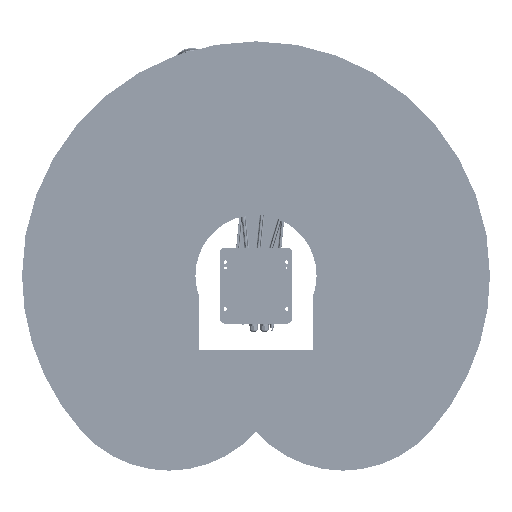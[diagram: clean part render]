
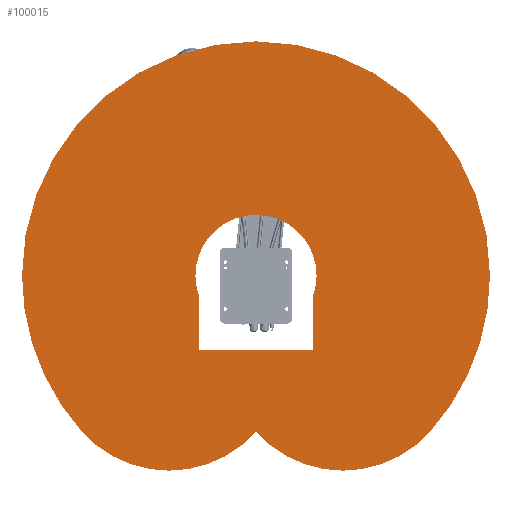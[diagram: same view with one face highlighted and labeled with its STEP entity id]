
A CAD part, front view. The second image highlights one B-rep face of the part: STEP entity #100015.
In plain terms, the highlighted planar face has unit normal (0, -1, 0) as drawn and (0, 0, 1) by its records, which use the part's own axes.
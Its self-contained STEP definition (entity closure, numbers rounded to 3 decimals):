
#153 = DIRECTION ( 'NONE',  ( 1., 0., 0. ) ) ;
#6232 = ORIENTED_EDGE ( 'NONE', *, *, #195327, .F. ) ;
#9344 = DIRECTION ( 'NONE',  ( -1., 0., 0. ) ) ;
#11474 = ORIENTED_EDGE ( 'NONE', *, *, #61401, .T. ) ;
#13415 = AXIS2_PLACEMENT_3D ( 'NONE', #109058, #280182, #221308 ) ;
#25685 = EDGE_LOOP ( 'NONE', ( #299074, #11474, #164456, #130207, #165605 ) ) ;
#26094 = CARTESIAN_POINT ( 'NONE',  ( 0., -535.304, 208. ) ) ;
#30086 = AXIS2_PLACEMENT_3D ( 'NONE', #85152, #186912, #47071 ) ;
#33138 = CARTESIAN_POINT ( 'NONE',  ( -196., -66.752, 208. ) ) ;
#35640 = DIRECTION ( 'NONE',  ( 1., 0., 0. ) ) ;
#36074 = ORIENTED_EDGE ( 'NONE', *, *, #359550, .F. ) ;
#37467 = DIRECTION ( 'NONE',  ( 0., 0., 1. ) ) ;
#38170 = DIRECTION ( 'NONE',  ( 1., 0., 0. ) ) ;
#47071 = DIRECTION ( 'NONE',  ( 1., 0., 0. ) ) ;
#49579 = CIRCLE ( 'NONE', #355217, 400. ) ;
#52146 = CARTESIAN_POINT ( 'NONE',  ( -594.516, -535.304, 208. ) ) ;
#54211 = CARTESIAN_POINT ( 'NONE',  ( 0., 0., 208. ) ) ;
#57007 = EDGE_CURVE ( 'NONE', #142178, #286723, #223186, .T. ) ;
#60202 = VERTEX_POINT ( 'NONE', #344549 ) ;
#60565 = CARTESIAN_POINT ( 'NONE',  ( 196., -66.752, 208. ) ) ;
#61401 = EDGE_CURVE ( 'NONE', #360782, #211636, #100511, .T. ) ;
#62311 = ORIENTED_EDGE ( 'NONE', *, *, #127358, .F. ) ;
#67780 = CIRCLE ( 'NONE', #238304, 207.055 ) ;
#68915 = VERTEX_POINT ( 'NONE', #60565 ) ;
#70063 = FACE_BOUND ( 'NONE', #316833, .T. ) ;
#80183 = CARTESIAN_POINT ( 'NONE',  ( -297.258, -267.652, 208. ) ) ;
#84855 = CARTESIAN_POINT ( 'NONE',  ( 800., 0., 208. ) ) ;
#85152 = CARTESIAN_POINT ( 'NONE',  ( 0., 0., 208. ) ) ;
#85977 = CARTESIAN_POINT ( 'NONE',  ( -196., -255., 208. ) ) ;
#90462 = CARTESIAN_POINT ( 'NONE',  ( 0., -267.652, 208. ) ) ;
#94633 = CARTESIAN_POINT ( 'NONE',  ( 594.516, -535.304, 208. ) ) ;
#95525 = CARTESIAN_POINT ( 'NONE',  ( 207.055, 0., 208. ) ) ;
#96207 = VECTOR ( 'NONE', #318259, 1000. ) ;
#98124 = CARTESIAN_POINT ( 'NONE',  ( 196., -255., 208. ) ) ;
#100015 = ADVANCED_FACE ( 'NONE', ( #178709, #70063 ), #232179, .F. ) ;
#100511 = CIRCLE ( 'NONE', #30086, 800. ) ;
#109058 = CARTESIAN_POINT ( 'NONE',  ( 0., 0., 208. ) ) ;
#110946 = CARTESIAN_POINT ( 'NONE',  ( -196., -255., 208. ) ) ;
#114989 = CARTESIAN_POINT ( 'NONE',  ( 297.258, -267.652, 208. ) ) ;
#116716 = DIRECTION ( 'NONE',  ( 1., 0., 0. ) ) ;
#117083 = VERTEX_POINT ( 'NONE', #26094 ) ;
#118467 = CIRCLE ( 'NONE', #141807, 207.055 ) ;
#127358 = EDGE_CURVE ( 'NONE', #60202, #337353, #278899, .T. ) ;
#130207 = ORIENTED_EDGE ( 'NONE', *, *, #334005, .T. ) ;
#140157 = CARTESIAN_POINT ( 'NONE',  ( 0., 0., 208. ) ) ;
#140975 = EDGE_CURVE ( 'NONE', #337353, #142178, #345927, .T. ) ;
#141807 = AXIS2_PLACEMENT_3D ( 'NONE', #242398, #205685, #38170 ) ;
#142178 = VERTEX_POINT ( 'NONE', #85977 ) ;
#144309 = CARTESIAN_POINT ( 'NONE',  ( 0., 0., 208. ) ) ;
#160709 = AXIS2_PLACEMENT_3D ( 'NONE', #90462, #208161, #9344 ) ;
#161631 = CARTESIAN_POINT ( 'NONE',  ( -800., 0., 208. ) ) ;
#162929 = DIRECTION ( 'NONE',  ( 0., 0., 1. ) ) ;
#164456 = ORIENTED_EDGE ( 'NONE', *, *, #327288, .T. ) ;
#165555 = ORIENTED_EDGE ( 'NONE', *, *, #140975, .F. ) ;
#165605 = ORIENTED_EDGE ( 'NONE', *, *, #308482, .T. ) ;
#178709 = FACE_OUTER_BOUND ( 'NONE', #25685, .T. ) ;
#186912 = DIRECTION ( 'NONE',  ( 0., 0., 1. ) ) ;
#190474 = CARTESIAN_POINT ( 'NONE',  ( 196., -66.752, 208. ) ) ;
#192400 = DIRECTION ( 'NONE',  ( 0., 0., 1. ) ) ;
#195327 = EDGE_CURVE ( 'NONE', #362136, #60202, #67780, .T. ) ;
#205685 = DIRECTION ( 'NONE',  ( 0., 0., 1. ) ) ;
#208161 = DIRECTION ( 'NONE',  ( 0., 0., -1. ) ) ;
#209453 = CIRCLE ( 'NONE', #297751, 800. ) ;
#211636 = VERTEX_POINT ( 'NONE', #84855 ) ;
#212876 = ORIENTED_EDGE ( 'NONE', *, *, #57007, .F. ) ;
#221308 = DIRECTION ( 'NONE',  ( 1., 0., 0. ) ) ;
#223186 = LINE ( 'NONE', #110946, #357315 ) ;
#232179 = PLANE ( 'NONE',  #160709 ) ;
#232657 = AXIS2_PLACEMENT_3D ( 'NONE', #140157, #337083, #153 ) ;
#238304 = AXIS2_PLACEMENT_3D ( 'NONE', #54211, #37467, #35640 ) ;
#242398 = CARTESIAN_POINT ( 'NONE',  ( 0., 0., 208. ) ) ;
#253047 = DIRECTION ( 'NONE',  ( 0., 1., 0. ) ) ;
#254457 = EDGE_CURVE ( 'NONE', #117083, #360782, #49579, .T. ) ;
#256575 = DIRECTION ( 'NONE',  ( 0., 0., 1. ) ) ;
#259448 = CARTESIAN_POINT ( 'NONE',  ( -196., -66.752, 208. ) ) ;
#275208 = DIRECTION ( 'NONE',  ( -1., 0., 0. ) ) ;
#278001 = EDGE_CURVE ( 'NONE', #68915, #362136, #118467, .T. ) ;
#278115 = CIRCLE ( 'NONE', #13415, 800. ) ;
#278899 = CIRCLE ( 'NONE', #232657, 207.055 ) ;
#279122 = ORIENTED_EDGE ( 'NONE', *, *, #278001, .F. ) ;
#280182 = DIRECTION ( 'NONE',  ( 0., 0., 1. ) ) ;
#281523 = VECTOR ( 'NONE', #253047, 1000. ) ;
#286723 = VERTEX_POINT ( 'NONE', #98124 ) ;
#297751 = AXIS2_PLACEMENT_3D ( 'NONE', #144309, #256575, #116716 ) ;
#299074 = ORIENTED_EDGE ( 'NONE', *, *, #254457, .T. ) ;
#308482 = EDGE_CURVE ( 'NONE', #341806, #117083, #335872, .T. ) ;
#316833 = EDGE_LOOP ( 'NONE', ( #279122, #36074, #212876, #165555, #62311, #6232 ) ) ;
#317602 = VERTEX_POINT ( 'NONE', #161631 ) ;
#318259 = DIRECTION ( 'NONE',  ( 0., -1., 0. ) ) ;
#327288 = EDGE_CURVE ( 'NONE', #211636, #317602, #278115, .T. ) ;
#334005 = EDGE_CURVE ( 'NONE', #317602, #341806, #209453, .T. ) ;
#335487 = DIRECTION ( 'NONE',  ( 1., 0., 0. ) ) ;
#335872 = CIRCLE ( 'NONE', #353434, 400. ) ;
#337083 = DIRECTION ( 'NONE',  ( 0., 0., 1. ) ) ;
#337353 = VERTEX_POINT ( 'NONE', #33138 ) ;
#341806 = VERTEX_POINT ( 'NONE', #52146 ) ;
#344549 = CARTESIAN_POINT ( 'NONE',  ( -207.055, 0., 208. ) ) ;
#345927 = LINE ( 'NONE', #259448, #96207 ) ;
#353434 = AXIS2_PLACEMENT_3D ( 'NONE', #80183, #192400, #354528 ) ;
#354528 = DIRECTION ( 'NONE',  ( 1., 0., 0. ) ) ;
#355217 = AXIS2_PLACEMENT_3D ( 'NONE', #114989, #162929, #275208 ) ;
#357315 = VECTOR ( 'NONE', #335487, 1000. ) ;
#359550 = EDGE_CURVE ( 'NONE', #286723, #68915, #363534, .T. ) ;
#360782 = VERTEX_POINT ( 'NONE', #94633 ) ;
#362136 = VERTEX_POINT ( 'NONE', #95525 ) ;
#363534 = LINE ( 'NONE', #190474, #281523 ) ;
